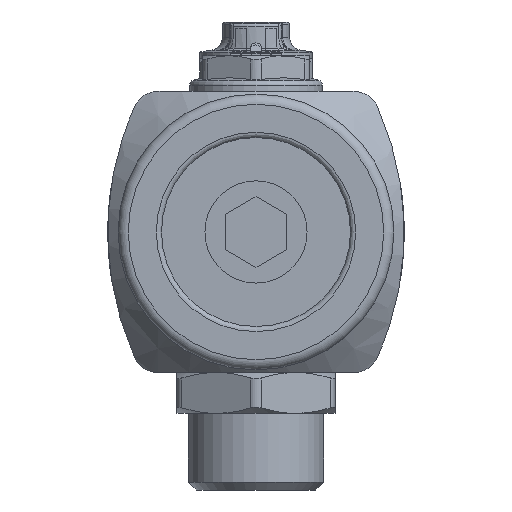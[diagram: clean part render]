
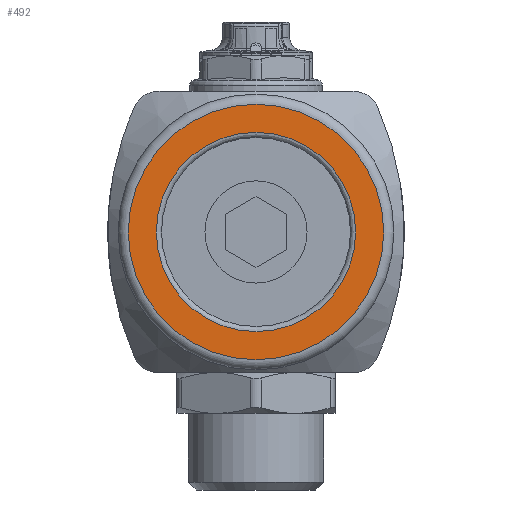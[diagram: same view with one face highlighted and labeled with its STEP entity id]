
A CAD part, front view. The second image highlights one B-rep face of the part: STEP entity #492.
In plain terms, the highlighted planar face has unit normal (0, -1, 0).
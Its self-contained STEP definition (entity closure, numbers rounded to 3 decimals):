
#492=ADVANCED_FACE('',(#5977,#5979),#5981,.F.);
#5977=FACE_BOUND('',#5978,.T.);
#5978=EDGE_LOOP('',(#11341));
#5979=FACE_BOUND('',#5980,.T.);
#5980=EDGE_LOOP('',(#11342));
#5981=PLANE('',#5982);
#5982=AXIS2_PLACEMENT_3D('',#5983,#5984,#5985);
#5983=CARTESIAN_POINT('',(0.,-304.,0.));
#5984=DIRECTION('',(0.,1.,0.));
#5985=DIRECTION('',(-1.,0.,0.));
#11341=ORIENTED_EDGE('',*,*,#16096,.F.);
#11342=ORIENTED_EDGE('',*,*,#16115,.T.);
#16096=EDGE_CURVE('',#19568,#19568,#19569,.T.);
#16115=EDGE_CURVE('',#19606,#19606,#19607,.F.);
#19568=VERTEX_POINT('',#44630);
#19569=CIRCLE('',#44631,25.);
#19606=VERTEX_POINT('',#44715);
#19607=CIRCLE('',#44716,19.5);
#44630=CARTESIAN_POINT('',(-25.,-304.,0.));
#44631=AXIS2_PLACEMENT_3D('',#44632,#44633,#44634);
#44632=CARTESIAN_POINT('',(0.,-304.,0.));
#44633=DIRECTION('',(0.,1.,0.));
#44634=DIRECTION('',(-1.,0.,0.));
#44715=CARTESIAN_POINT('',(19.5,-304.,0.));
#44716=AXIS2_PLACEMENT_3D('',#44717,#44718,#44719);
#44717=CARTESIAN_POINT('',(0.,-304.,0.));
#44718=DIRECTION('',(0.,-1.,0.));
#44719=DIRECTION('',(1.,0.,0.));
